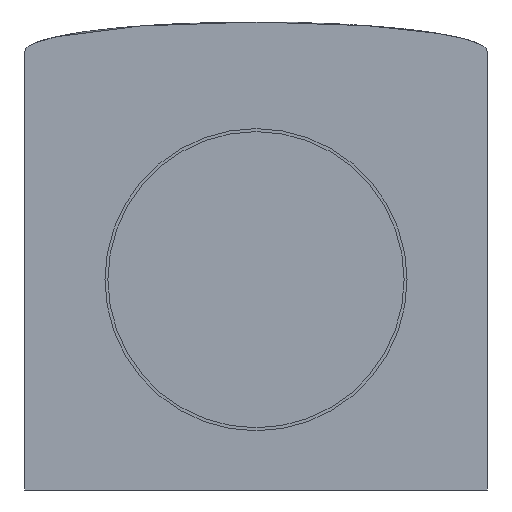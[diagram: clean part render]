
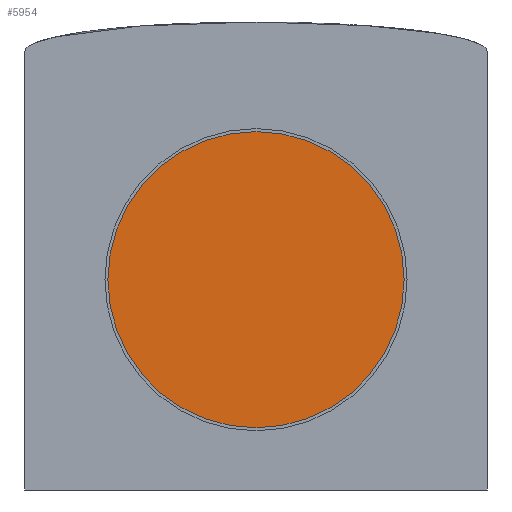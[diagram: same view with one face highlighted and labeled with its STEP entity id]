
A CAD part, front view. The second image highlights one B-rep face of the part: STEP entity #5954.
In plain terms, the highlighted planar face has unit normal (0, -1, 0).
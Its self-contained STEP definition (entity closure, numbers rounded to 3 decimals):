
#127 = ORIENTED_EDGE ( 'NONE', *, *, #1357, .F. ) ;
#171 = EDGE_LOOP ( 'NONE', ( #1773, #127 ) ) ;
#963 = VERTEX_POINT ( 'NONE', #1911 ) ;
#1064 = DIRECTION ( 'NONE',  ( 0., 1., 0. ) ) ;
#1357 = EDGE_CURVE ( 'NONE', #4951, #963, #1747, .T. ) ;
#1462 = CIRCLE ( 'NONE', #6449, 10. ) ;
#1699 = EDGE_CURVE ( 'NONE', #963, #4951, #1462, .T. ) ;
#1747 = CIRCLE ( 'NONE', #8280, 10. ) ;
#1755 = DIRECTION ( 'NONE',  ( 0., 0., 1. ) ) ;
#1773 = ORIENTED_EDGE ( 'NONE', *, *, #1699, .F. ) ;
#1911 = CARTESIAN_POINT ( 'NONE',  ( 0., -24., 12. ) ) ;
#3905 = CARTESIAN_POINT ( 'NONE',  ( 0., -24., 2. ) ) ;
#4195 = CARTESIAN_POINT ( 'NONE',  ( 0., -24., -8. ) ) ;
#4431 = DIRECTION ( 'NONE',  ( 0., 0., 1. ) ) ;
#4951 = VERTEX_POINT ( 'NONE', #4195 ) ;
#5228 = DIRECTION ( 'NONE',  ( 0., 1., 0. ) ) ;
#5239 = DIRECTION ( 'NONE',  ( 0., 0., 1. ) ) ;
#5909 = AXIS2_PLACEMENT_3D ( 'NONE', #6664, #1064, #4431 ) ;
#5954 = ADVANCED_FACE ( 'NONE', ( #6540 ), #8490, .F. ) ;
#6449 = AXIS2_PLACEMENT_3D ( 'NONE', #7852, #5228, #1755 ) ;
#6540 = FACE_OUTER_BOUND ( 'NONE', #171, .T. ) ;
#6664 = CARTESIAN_POINT ( 'NONE',  ( 0., -24., 12. ) ) ;
#7332 = DIRECTION ( 'NONE',  ( 0., 1., 0. ) ) ;
#7852 = CARTESIAN_POINT ( 'NONE',  ( 0., -24., 2. ) ) ;
#8280 = AXIS2_PLACEMENT_3D ( 'NONE', #3905, #7332, #5239 ) ;
#8490 = PLANE ( 'NONE',  #5909 ) ;
